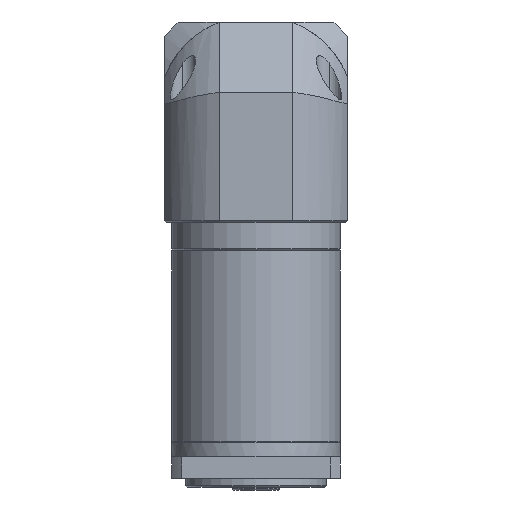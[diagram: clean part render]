
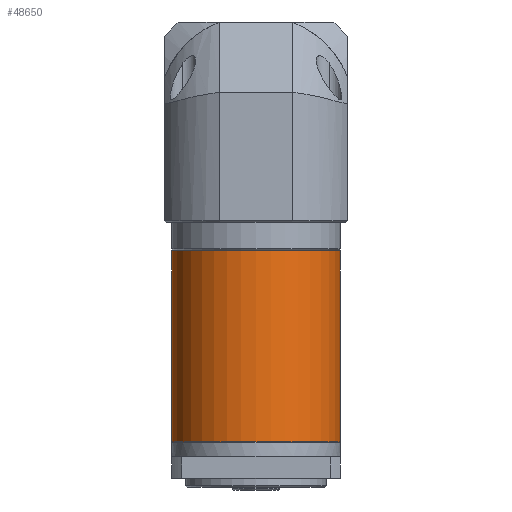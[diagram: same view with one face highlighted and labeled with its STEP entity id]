
A CAD part, front view. The second image highlights one B-rep face of the part: STEP entity #48650.
In plain terms, the highlighted cylindrical face has radius 30 mm (diameter 60 mm), a partial arc.
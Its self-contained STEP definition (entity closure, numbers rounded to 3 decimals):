
#2003 = DIRECTION ( 'NONE',  ( 0., 0., 1. ) ) ;
#14853 = DIRECTION ( 'NONE',  ( 0., 0., -1. ) ) ;
#22502 = ORIENTED_EDGE ( 'NONE', *, *, #86107, .T. ) ;
#23089 = EDGE_CURVE ( 'NONE', #36387, #35984, #69495, .T. ) ;
#24952 = CIRCLE ( 'NONE', #96788, 30. ) ;
#26491 = DIRECTION ( 'NONE',  ( 1., 0., 0. ) ) ;
#27320 = CARTESIAN_POINT ( 'NONE',  ( 69.227, 46.066, -33.974 ) ) ;
#31671 = AXIS2_PLACEMENT_3D ( 'NONE', #44349, #2003, #26491 ) ;
#32951 = VERTEX_POINT ( 'NONE', #36227 ) ;
#33546 = EDGE_CURVE ( 'NONE', #32951, #35984, #63740, .T. ) ;
#35984 = VERTEX_POINT ( 'NONE', #102998 ) ;
#36227 = CARTESIAN_POINT ( 'NONE',  ( 69.227, 46.066, -34.224 ) ) ;
#36387 = VERTEX_POINT ( 'NONE', #75584 ) ;
#44349 = CARTESIAN_POINT ( 'NONE',  ( 39.227, 46.066, -102.024 ) ) ;
#47707 = CARTESIAN_POINT ( 'NONE',  ( 39.227, 46.066, -33.974 ) ) ;
#48607 = EDGE_CURVE ( 'NONE', #32951, #80541, #24952, .T. ) ;
#48650 = ADVANCED_FACE ( 'NONE', ( #95617 ), #52413, .T. ) ;
#50429 = CARTESIAN_POINT ( 'NONE',  ( 9.227, 46.066, -33.974 ) ) ;
#51476 = DIRECTION ( 'NONE',  ( 0., 0., -1. ) ) ;
#52413 = CYLINDRICAL_SURFACE ( 'NONE', #103780, 30. ) ;
#56074 = DIRECTION ( 'NONE',  ( 1., 0., 0. ) ) ;
#63740 = LINE ( 'NONE', #27320, #100274 ) ;
#69495 = CIRCLE ( 'NONE', #31671, 30. ) ;
#75584 = CARTESIAN_POINT ( 'NONE',  ( 9.227, 46.066, -102.024 ) ) ;
#80541 = VERTEX_POINT ( 'NONE', #82134 ) ;
#81223 = EDGE_LOOP ( 'NONE', ( #93934, #91813, #22502, #96262 ) ) ;
#81296 = DIRECTION ( 'NONE',  ( 0., 0., -1. ) ) ;
#82134 = CARTESIAN_POINT ( 'NONE',  ( 9.227, 46.066, -34.224 ) ) ;
#86107 = EDGE_CURVE ( 'NONE', #80541, #36387, #105244, .T. ) ;
#91813 = ORIENTED_EDGE ( 'NONE', *, *, #48607, .T. ) ;
#93934 = ORIENTED_EDGE ( 'NONE', *, *, #33546, .F. ) ;
#95617 = FACE_OUTER_BOUND ( 'NONE', #81223, .T. ) ;
#96262 = ORIENTED_EDGE ( 'NONE', *, *, #23089, .T. ) ;
#96695 = DIRECTION ( 'NONE',  ( 0., 0., -1. ) ) ;
#96788 = AXIS2_PLACEMENT_3D ( 'NONE', #106110, #81296, #56074 ) ;
#98095 = DIRECTION ( 'NONE',  ( -1., 0., 0. ) ) ;
#100274 = VECTOR ( 'NONE', #96695, 1000. ) ;
#102998 = CARTESIAN_POINT ( 'NONE',  ( 69.227, 46.066, -102.024 ) ) ;
#103780 = AXIS2_PLACEMENT_3D ( 'NONE', #47707, #14853, #98095 ) ;
#103870 = VECTOR ( 'NONE', #51476, 1000. ) ;
#105244 = LINE ( 'NONE', #50429, #103870 ) ;
#106110 = CARTESIAN_POINT ( 'NONE',  ( 39.227, 46.066, -34.224 ) ) ;
